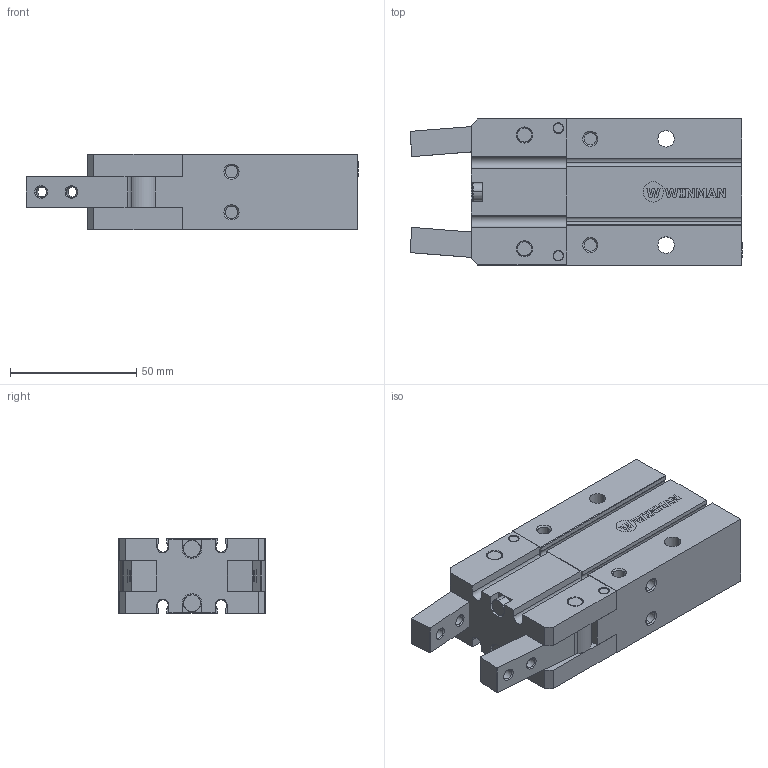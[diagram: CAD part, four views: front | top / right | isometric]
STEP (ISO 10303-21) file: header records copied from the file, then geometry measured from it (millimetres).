
FILE_DESCRIPTION (( 'STEP AP214' ), '1' );
FILE_NAME ('WHFR-025 (MDMY).STEP', '2017-01-24T10:25:41', ( '' ), ( '' ), 'SwSTEP 2.0', 'SolidWorks 2015', '' );
FILE_SCHEMA (( 'AUTOMOTIVE_DESIGN' ));
Length unit declared in the file: millimetre
Products named in the file (3): WHFR-025 (MDMY); WHFR25_finger(0); WHFR25_body
Assembly tree (2 placements, depth 2):
  WHFR-025 (MDMY)
    WHFR25_body
    WHFR25_finger(0)
Bounding box: 131.24 x 58 x 30 mm (x, y, z)
Volume: 157593.6 mm3; surface area: 52137.4 mm2
Topology: 2 solids, 2 shells, 483 faces, 1263 edges, 814 vertices
Faces by surface type: plane 246, cylinder 159, cone 74, bspline 4
Entity records: 16093 total; most frequent: CARTESIAN_POINT 2677, DIRECTION 2657, ORIENTED_EDGE 2526, EDGE_CURVE 1263, AXIS2_PLACEMENT_3D 922, VERTEX_POINT 814, LINE 813, VECTOR 813
